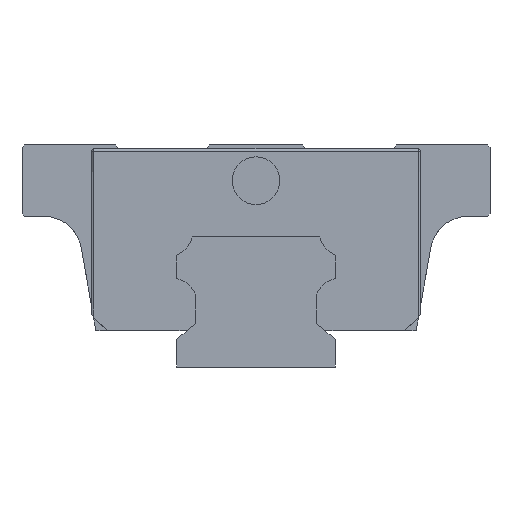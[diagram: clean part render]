
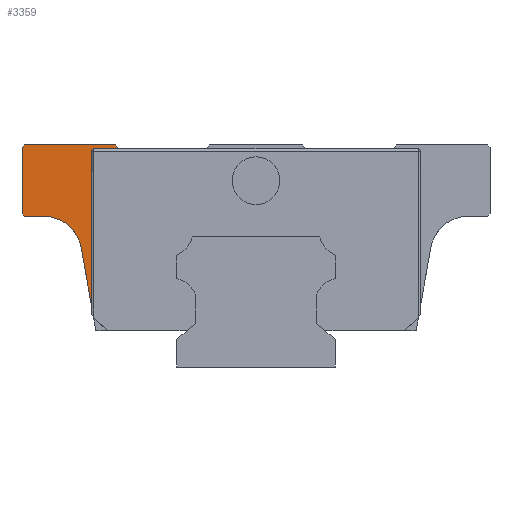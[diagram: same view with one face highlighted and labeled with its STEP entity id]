
A CAD part, left-side view. The second image highlights one B-rep face of the part: STEP entity #3359.
In plain terms, the highlighted planar face has unit normal (-1, 0, 0).
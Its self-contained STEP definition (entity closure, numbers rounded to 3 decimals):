
#30 = EDGE_CURVE ( 'NONE', #2178, #4729, #3668, .T. ) ;
#38 = CARTESIAN_POINT ( 'NONE',  ( -13.9, 3.032, -7.173 ) ) ;
#132 = CARTESIAN_POINT ( 'NONE',  ( -13.9, 20.752, 7.791 ) ) ;
#151 = DIRECTION ( 'NONE',  ( 0., 1., 0. ) ) ;
#205 = EDGE_CURVE ( 'NONE', #4729, #3420, #909, .T. ) ;
#218 = LINE ( 'NONE', #5442, #807 ) ;
#471 = DIRECTION ( 'NONE',  ( 0., 0.707, -0.707 ) ) ;
#695 = DIRECTION ( 'NONE',  ( 0., 0., -1. ) ) ;
#723 = CARTESIAN_POINT ( 'NONE',  ( -13.9, 26.714, 19. ) ) ;
#794 = EDGE_CURVE ( 'NONE', #5720, #2191, #5901, .T. ) ;
#807 = VECTOR ( 'NONE', #3375, 1000. ) ;
#850 = DIRECTION ( 'NONE',  ( 0., 0., -1. ) ) ;
#909 = LINE ( 'NONE', #4504, #5978 ) ;
#990 = CARTESIAN_POINT ( 'NONE',  ( -13.9, 29.5, 19.295 ) ) ;
#1174 = AXIS2_PLACEMENT_3D ( 'NONE', #2174, #1180, #4831 ) ;
#1180 = DIRECTION ( 'NONE',  ( 1., 0., 0. ) ) ;
#1214 = VERTEX_POINT ( 'NONE', #132 ) ;
#1280 = ORIENTED_EDGE ( 'NONE', *, *, #2136, .T. ) ;
#1610 = PLANE ( 'NONE',  #2223 ) ;
#1654 = LINE ( 'NONE', #5929, #4631 ) ;
#1695 = ORIENTED_EDGE ( 'NONE', *, *, #205, .T. ) ;
#1728 = CARTESIAN_POINT ( 'NONE',  ( -13.9, 20.457, 27.21 ) ) ;
#1738 = VERTEX_POINT ( 'NONE', #4596 ) ;
#1780 = LINE ( 'NONE', #4891, #4355 ) ;
#1796 = CARTESIAN_POINT ( 'NONE',  ( -13.9, 22.728, 19. ) ) ;
#1807 = ORIENTED_EDGE ( 'NONE', *, *, #2037, .F. ) ;
#1848 = CARTESIAN_POINT ( 'NONE',  ( -13.9, 17.7, 28. ) ) ;
#2037 = EDGE_CURVE ( 'NONE', #1738, #1214, #1654, .T. ) ;
#2118 = CARTESIAN_POINT ( 'NONE',  ( -13.9, 21.932, 35.273 ) ) ;
#2136 = EDGE_CURVE ( 'NONE', #6151, #5720, #2441, .T. ) ;
#2174 = CARTESIAN_POINT ( 'NONE',  ( -13.9, 26.714, 14.25 ) ) ;
#2178 = VERTEX_POINT ( 'NONE', #2386 ) ;
#2191 = VERTEX_POINT ( 'NONE', #2310 ) ;
#2223 = AXIS2_PLACEMENT_3D ( 'NONE', #3709, #2571, #4196 ) ;
#2310 = CARTESIAN_POINT ( 'NONE',  ( -13.9, 22.036, 15.075 ) ) ;
#2318 = LINE ( 'NONE', #1796, #5746 ) ;
#2341 = ORIENTED_EDGE ( 'NONE', *, *, #5755, .T. ) ;
#2377 = AXIS2_PLACEMENT_3D ( 'NONE', #1728, #6480, #4933 ) ;
#2386 = CARTESIAN_POINT ( 'NONE',  ( -13.9, 29.205, 28. ) ) ;
#2441 = LINE ( 'NONE', #3935, #4304 ) ;
#2533 = LINE ( 'NONE', #38, #3201 ) ;
#2549 = ORIENTED_EDGE ( 'NONE', *, *, #3732, .T. ) ;
#2571 = DIRECTION ( 'NONE',  ( -1., 0., 0. ) ) ;
#2581 = VERTEX_POINT ( 'NONE', #1848 ) ;
#2721 = CARTESIAN_POINT ( 'NONE',  ( -13.9, 17.7, 28. ) ) ;
#2825 = DIRECTION ( 'NONE',  ( 0., -1., 0. ) ) ;
#2851 = CARTESIAN_POINT ( 'NONE',  ( -13.9, 20.457, 27.505 ) ) ;
#3065 = CARTESIAN_POINT ( 'NONE',  ( -13.9, 29.5, 27.705 ) ) ;
#3135 = ORIENTED_EDGE ( 'NONE', *, *, #3470, .T. ) ;
#3136 = ORIENTED_EDGE ( 'NONE', *, *, #794, .T. ) ;
#3201 = VECTOR ( 'NONE', #4235, 1000. ) ;
#3359 = ADVANCED_FACE ( 'NONE', ( #4271 ), #1610, .T. ) ;
#3374 = ORIENTED_EDGE ( 'NONE', *, *, #5324, .T. ) ;
#3375 = DIRECTION ( 'NONE',  ( 0., 1., 0. ) ) ;
#3420 = VERTEX_POINT ( 'NONE', #990 ) ;
#3470 = EDGE_CURVE ( 'NONE', #3420, #6151, #2533, .T. ) ;
#3668 = LINE ( 'NONE', #2118, #4983 ) ;
#3709 = CARTESIAN_POINT ( 'NONE',  ( -13.9, 0., 17.29 ) ) ;
#3732 = EDGE_CURVE ( 'NONE', #2191, #1214, #2318, .T. ) ;
#3887 = DIRECTION ( 'NONE',  ( 0., 0.643, 0.766 ) ) ;
#3935 = CARTESIAN_POINT ( 'NONE',  ( -13.9, 29.5, 19. ) ) ;
#3938 = ORIENTED_EDGE ( 'NONE', *, *, #4076, .F. ) ;
#4014 = VECTOR ( 'NONE', #151, 1000. ) ;
#4076 = EDGE_CURVE ( 'NONE', #6043, #4099, #218, .T. ) ;
#4099 = VERTEX_POINT ( 'NONE', #2851 ) ;
#4196 = DIRECTION ( 'NONE',  ( 0., 0., 1. ) ) ;
#4230 = CARTESIAN_POINT ( 'NONE',  ( -13.9, 17.285, 27.505 ) ) ;
#4235 = DIRECTION ( 'NONE',  ( 0., -0.707, -0.707 ) ) ;
#4271 = FACE_OUTER_BOUND ( 'NONE', #5042, .T. ) ;
#4304 = VECTOR ( 'NONE', #2825, 1000. ) ;
#4355 = VECTOR ( 'NONE', #3887, 1000. ) ;
#4374 = ORIENTED_EDGE ( 'NONE', *, *, #6443, .T. ) ;
#4504 = CARTESIAN_POINT ( 'NONE',  ( -13.9, 29.5, 28. ) ) ;
#4513 = ORIENTED_EDGE ( 'NONE', *, *, #30, .T. ) ;
#4596 = CARTESIAN_POINT ( 'NONE',  ( -13.9, 20.752, 27.21 ) ) ;
#4631 = VECTOR ( 'NONE', #695, 1000. ) ;
#4729 = VERTEX_POINT ( 'NONE', #3065 ) ;
#4831 = DIRECTION ( 'NONE',  ( 0., 0., 1. ) ) ;
#4891 = CARTESIAN_POINT ( 'NONE',  ( -13.9, 17.228, 27.438 ) ) ;
#4920 = CARTESIAN_POINT ( 'NONE',  ( -13.9, 29.205, 19. ) ) ;
#4933 = DIRECTION ( 'NONE',  ( 0., 0., 1. ) ) ;
#4983 = VECTOR ( 'NONE', #471, 1000. ) ;
#5042 = EDGE_LOOP ( 'NONE', ( #1807, #4374, #3938, #2341, #3374, #4513, #1695, #3135, #1280, #3136, #2549 ) ) ;
#5066 = DIRECTION ( 'NONE',  ( 0., -0.174, -0.985 ) ) ;
#5324 = EDGE_CURVE ( 'NONE', #2581, #2178, #5897, .T. ) ;
#5344 = CIRCLE ( 'NONE', #2377, 0.295 ) ;
#5442 = CARTESIAN_POINT ( 'NONE',  ( -13.9, -20.542, 27.505 ) ) ;
#5720 = VERTEX_POINT ( 'NONE', #723 ) ;
#5746 = VECTOR ( 'NONE', #5066, 1000. ) ;
#5755 = EDGE_CURVE ( 'NONE', #6043, #2581, #1780, .T. ) ;
#5897 = LINE ( 'NONE', #2721, #4014 ) ;
#5901 = CIRCLE ( 'NONE', #1174, 4.75 ) ;
#5929 = CARTESIAN_POINT ( 'NONE',  ( -13.9, 20.752, 26.875 ) ) ;
#5978 = VECTOR ( 'NONE', #850, 1000. ) ;
#6043 = VERTEX_POINT ( 'NONE', #4230 ) ;
#6151 = VERTEX_POINT ( 'NONE', #4920 ) ;
#6443 = EDGE_CURVE ( 'NONE', #1738, #4099, #5344, .T. ) ;
#6480 = DIRECTION ( 'NONE',  ( 1., 0., 0. ) ) ;
